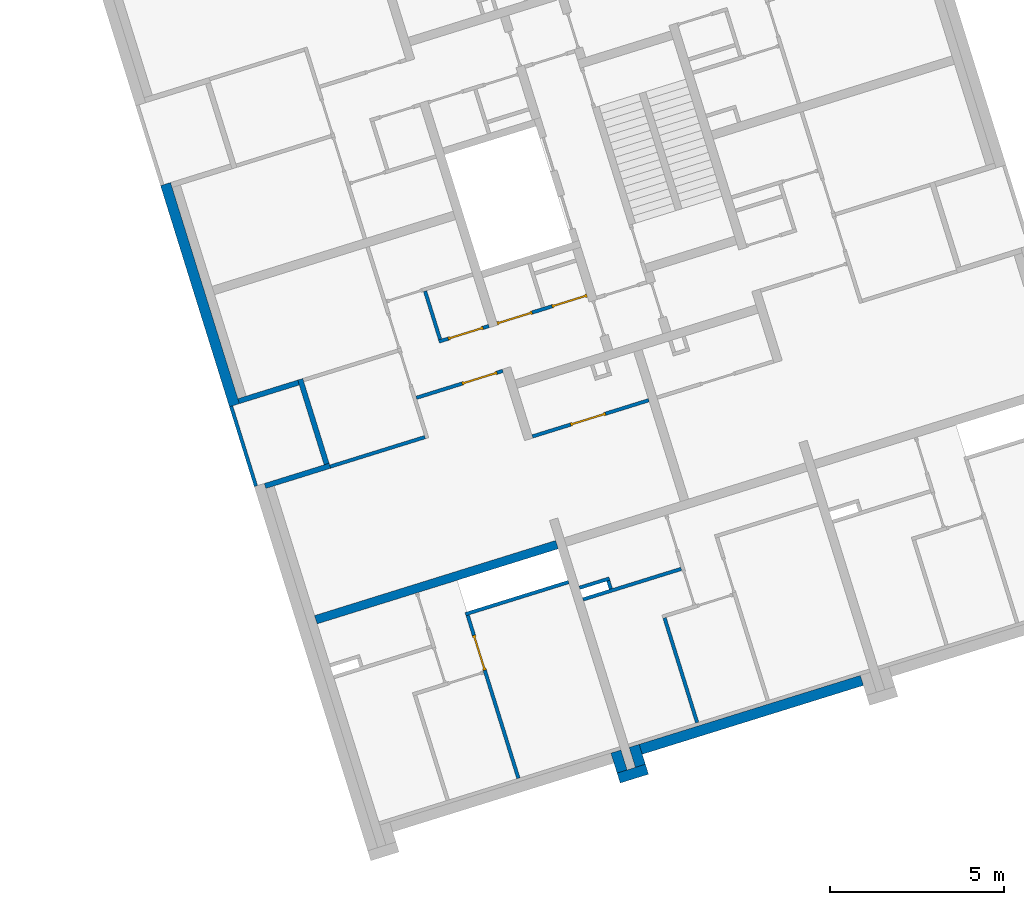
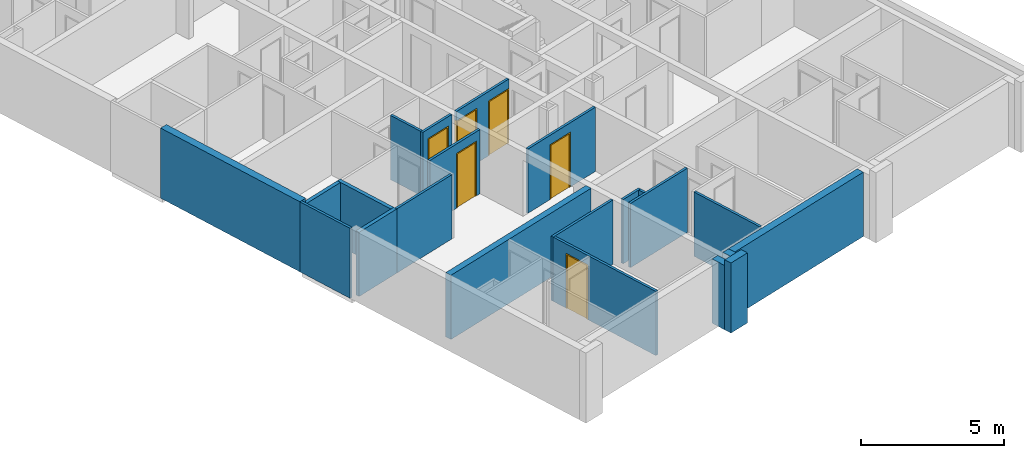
# One storey, part 2 of 12: 22 walls, 6 doors, 7 openings.
"""IFC4 building model written with IfcOpenShell, lengths in metres."""

from ifc_helpers import new_model, entity, si_unit, converted_unit, direction, frame, origin, place, context, subcontext, project, spatial, indexed_curve, outline, extrude, polygons, source, transform, mapped, material, constituent, constituent_set, type_object, type_shapes, element, fill, save


model = new_model("IFC4")

# Units and contexts
model_context = context("Model", 3, precision=1e-05, world=origin(), true_north=direction((6.12323399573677e-17, 1.0)))
body_context = subcontext(model_context, "Body", "Model", "MODEL_VIEW")
ifc_project = project(units=[si_unit("LENGTHUNIT", "METRE"), si_unit("AREAUNIT", "SQUARE_METRE"), si_unit("VOLUMEUNIT", "CUBIC_METRE"), converted_unit("PLANEANGLEUNIT", "DEGREE", entity("IfcPlaneAngleMeasure", 0.0174532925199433), si_unit("PLANEANGLEUNIT", "RADIAN"), dimensions=[0, 0, 0, 0, 0, 0, 0])], contexts=[model_context])

# Site, building, storey
site_placement = place(None, frame((13.1347999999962, 11.9886000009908, 0.0), z_axis=(0.0, 0.0, 1.0), x_axis=(0.954770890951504, 0.297342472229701, 0.0)))
site = spatial("IfcSite", under=ifc_project, at=site_placement, Name="Schiehaven", CompositionType="ELEMENT")
building_placement = place(site_placement, origin())
building = spatial("IfcBuilding", under=site, at=building_placement, Name="VORM huis", CompositionType="ELEMENT")
storey_placement = place(building_placement, frame((0.0, 0.0, 3.9)))
storey = spatial("IfcBuildingStorey", under=building, at=storey_placement, Name="01 eerste verdieping", CompositionType="ELEMENT", Elevation=3.9)

# Walls
ifc_material_1 = material(Name="ntb_ntb_ntb", Category="Miscellaneous")
wall_type_1 = type_object("IfcWallType", Name="Basic Wall: 300mm_gen", PredefinedType="STANDARD")
wall_1_placement = place(storey_placement, frame((4.72500000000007, 13.7250000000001, 0.0), z_axis=(0.0, 0.0, 1.0), x_axis=(0.0, 1.0, 0.0)))
element("IfcWall", 1, at=wall_1_placement, inside=storey, type_object=wall_type_1, material=ifc_material_1, Name="Gevelwand", ObjectType="Wand", PredefinedType="NOTDEFINED", context=body_context, shape_type="SweptSolid", body=[
    extrude(outline(indexed_curve([(6.64999999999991, 0.15), (-2.93106892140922e-16, 0.15), (2.93106892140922e-16, -0.15), (6.64999999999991, -0.15), (6.64999999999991, 0.15)], self_intersect=False)), origin(), (0.0, 0.0, 1.0), 3.0),
])
wall_2_placement = place(storey_placement, frame((12.225, 0.375000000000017, 0.0), z_axis=(0.0, 0.0, 1.0), x_axis=(0.0, 1.0, 0.0)))
element("IfcWall", 2, at=wall_2_placement, inside=storey, type_object=wall_type_1, material=ifc_material_1, Name="Gevelwand", ObjectType="Wand", PredefinedType="NOTDEFINED", context=body_context, shape_type="SweptSolid", body=[
    extrude(outline(indexed_curve([(0.600000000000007, 0.150000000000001), (0.0, 0.150000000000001), (0.0, -0.150000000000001), (0.600000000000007, -0.150000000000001), (0.600000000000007, 0.150000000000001)], self_intersect=False)), origin(), (0.0, 0.0, 1.0), 2.75),
])
wall_3_placement = place(storey_placement, frame((12.9250000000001, 0.225000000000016, 0.0), z_axis=(0.0, 0.0, 1.0), x_axis=(-1.0, 0.0, 0.0)))
element("IfcWall", 3, at=wall_3_placement, inside=storey, type_object=wall_type_1, material=ifc_material_1, Name="Gevelwand", ObjectType="Wand", PredefinedType="NOTDEFINED", context=body_context, shape_type="SweptSolid", body=[
    extrude(outline(indexed_curve([(0.850000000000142, 0.15), (-3.08086889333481e-16, 0.15), (3.08086889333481e-16, -0.15), (0.850000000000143, -0.15), (0.850000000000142, 0.15)], self_intersect=False)), origin(), (0.0, 0.0, 1.0), 3.0),
])
wall_4_placement = place(storey_placement, frame((12.7750000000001, 0.975000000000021, 0.0), z_axis=(0.0, 0.0, 1.0), x_axis=(0.0, -1.0, 0.0)))
element("IfcWall", 4, at=wall_4_placement, inside=storey, type_object=wall_type_1, material=ifc_material_1, Name="Gevelwand", ObjectType="Wand", PredefinedType="NOTDEFINED", context=body_context, shape_type="SweptSolid", body=[
    extrude(outline(indexed_curve([(0.600000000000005, 0.150000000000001), (0.0, 0.150000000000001), (0.0, -0.150000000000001), (0.600000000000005, -0.150000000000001), (0.600000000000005, 0.150000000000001)], self_intersect=False)), origin(), (0.0, 0.0, 1.0), 2.75),
])
wall_5_placement = place(storey_placement, frame((19.5750000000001, 0.824999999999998, 0.0), z_axis=(0.0, 0.0, 1.0), x_axis=(-1.0, 0.0, 0.0)))
element("IfcWall", 5, at=wall_5_placement, inside=storey, type_object=wall_type_1, material=ifc_material_1, Name="Gevelwand", ObjectType="Wand", PredefinedType="NOTDEFINED", context=body_context, shape_type="SweptSolid", body=[
    extrude(outline(indexed_curve([(6.64999999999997, 0.15), (-4.76111769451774e-16, 0.15), (4.76111769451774e-16, -0.15), (6.64999999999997, -0.15), (6.64999999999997, 0.15)], self_intersect=False)), origin(), (0.0, 0.0, 1.0), 2.75),
])
wall_type_2 = type_object("IfcWallType", Name="Basic Wall:22_WA_afbouw_binnenwand 250mm_gen", PredefinedType="STANDARD")
wall_6_placement = place(storey_placement, frame((5.12500000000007, 7.15000000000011, 0.0)))
element("IfcWall", 6, at=wall_6_placement, inside=storey, type_object=wall_type_2, material=ifc_material_1, Name="Binnenwand", ObjectType="Wand", PredefinedType="NOTDEFINED", context=body_context, shape_type="SweptSolid", body=[
    extrude(outline(indexed_curve([(7.24999999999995, 0.124999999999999), (-1.92055213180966e-16, 0.125), (1.92055213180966e-16, -0.125), (7.24999999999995, -0.125000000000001), (7.24999999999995, 0.124999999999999)], self_intersect=False)), origin(), (0.0, 0.0, 1.0), 2.75),
])
wall_type_3 = type_object("IfcWallType", Name="Basic Wall:22_WA_afbouw_binnenwand 100mm_gen", PredefinedType="STANDARD")
wall_7_placement = place(storey_placement, frame((14.7, 1.07500000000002, 0.0), z_axis=(0.0, 0.0, 1.0), x_axis=(0.0, 1.0, 0.0)))
element("IfcWall", 7, at=wall_7_placement, inside=storey, type_object=wall_type_3, material=ifc_material_1, Name="Binnenwand", ObjectType="Wand", PredefinedType="NOTDEFINED", context=body_context, shape_type="SweptSolid", body=[
    extrude(outline(indexed_curve([(3.15000000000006, 0.049999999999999), (-6.18781216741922e-17, 0.0499999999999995), (6.18781216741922e-17, -0.0499999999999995), (3.15000000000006, -0.0499999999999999), (3.15000000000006, 0.049999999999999)], self_intersect=False)), origin(), (0.0, 0.0, 1.0), 2.75),
])
wall_8_placement = place(storey_placement, frame((15.5750000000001, 5.42500000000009, 0.0), z_axis=(0.0, 0.0, 1.0), x_axis=(-1.0, 0.0, 0.0)))
element("IfcWall", 8, at=wall_8_placement, inside=storey, type_object=wall_type_3, material=ifc_material_1, Name="Binnenwand", ObjectType="Wand", PredefinedType="NOTDEFINED", context=body_context, shape_type="SweptSolid", body=[
    extrude(outline(indexed_curve([(2.95000000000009, 0.0499999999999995), (0.0, 0.0499999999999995), (0.0, -0.0499999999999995), (2.95000000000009, -0.0499999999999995), (2.95000000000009, 0.0499999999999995)], self_intersect=False)), origin(), (0.0, 0.0, 1.0), 2.75),
])
wall_9_placement = place(storey_placement, frame((12.625, 5.7750000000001, 0.0)))
element("IfcWall", 9, at=wall_9_placement, inside=storey, type_object=wall_type_3, material=ifc_material_1, Name="Binnenwand", ObjectType="Wand", PredefinedType="NOTDEFINED", context=body_context, shape_type="SweptSolid", body=[
    extrude(outline(indexed_curve([(0.899999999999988, 0.0500000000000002), (-1.02695629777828e-16, 0.0500000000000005), (1.02695629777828e-16, -0.0500000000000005), (0.899999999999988, -0.0500000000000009), (0.899999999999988, 0.0500000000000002)], self_intersect=False)), origin(), (0.0, 0.0, 1.0), 2.75),
])
wall_10_placement = place(storey_placement, frame((13.475, 5.7250000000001, 0.0), z_axis=(0.0, 0.0, 1.0), x_axis=(0.0, -1.0, 0.0)))
element("IfcWall", 10, at=wall_10_placement, inside=storey, type_object=wall_type_3, material=ifc_material_1, Name="Binnenwand", ObjectType="Wand", PredefinedType="NOTDEFINED", context=body_context, shape_type="SweptSolid", body=[
    extrude(outline(indexed_curve([(0.250000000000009, 0.0499999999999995), (0.0, 0.0499999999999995), (0.0, -0.0499999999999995), (0.250000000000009, -0.0499999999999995), (0.250000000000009, 0.0499999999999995)], self_intersect=False)), origin(), (0.0, 0.0, 1.0), 2.75),
])
wall_11_placement = place(storey_placement, frame((9.27499999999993, 6.0250000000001, 0.0)))
element("IfcWall", 11, at=wall_11_placement, inside=storey, type_object=wall_type_3, material=ifc_material_1, Name="Binnenwand", ObjectType="Wand", PredefinedType="NOTDEFINED", context=body_context, shape_type="SweptSolid", body=[
    extrude(outline(indexed_curve([(3.10000000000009, 0.0499999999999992), (-1.5325289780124e-16, 0.0499999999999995), (1.5325289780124e-16, -0.0499999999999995), (3.10000000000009, -0.0499999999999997), (3.10000000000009, 0.0499999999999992)], self_intersect=False)), origin(), (0.0, 0.0, 1.0), 2.75),
])

# Wall, openings, door
wall_12_placement = place(storey_placement, frame((9.32499999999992, 1.07500000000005, 0.0), z_axis=(0.0, 0.0, 1.0), x_axis=(0.0, 1.0, 0.0)))
wall_12 = element("IfcWall", 12, at=wall_12_placement, inside=storey, type_object=wall_type_3, material=ifc_material_1, Name="Binnenwand", ObjectType="Wand", PredefinedType="NOTDEFINED", context=body_context, shape_type="Tessellation", body=[
    polygons([(4.90000000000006, -0.0500000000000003, 2.75), (2.70716782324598e-16, -0.0500000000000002, 2.75), (5.41433564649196e-16, -0.0500000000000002, 0.0), (3.25000000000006, -0.0500000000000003, 0.0), (3.25000000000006, -0.0500000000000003, 2.34999999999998), (4.30000000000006, -0.0500000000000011, 2.34999999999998), (4.30000000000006, -0.0500000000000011, 0.0), (4.90000000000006, -0.0500000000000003, 0.0), (4.06075173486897e-16, 0.0499999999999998, 2.75), (3.15000000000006, 0.0499999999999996, 2.75), (3.25000000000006, 0.0499999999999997, 2.75), (4.90000000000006, 0.0500000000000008, 2.75), (4.90000000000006, 0.0500000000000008, 0.0), (4.30000000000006, 0.05, 0.0), (4.30000000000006, 0.05, 2.34999999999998), (3.25000000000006, 0.0499999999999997, 2.34999999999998), (3.25000000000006, 0.0499999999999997, 0.0), (3.15000000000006, 0.0499999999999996, 5.41433564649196e-16), (5.41433564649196e-16, 0.0499999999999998, 0.0)], [[[1, 2, 3, 4, 5, 6, 7, 8]], [[9, 10, 11, 12, 13, 14, 15, 16, 17, 18, 19]], [[3, 19, 18, 17, 4]], [[2, 1, 12, 11, 10, 9]], [[3, 2, 9, 19]], [[1, 8, 13, 12]], [[6, 15, 14, 7]], [[16, 5, 4, 17]], [[15, 6, 5, 16]], [[13, 8, 7, 14]]], closed=True),
])
opening_1_placement = place(wall_12_placement, frame((3.25000000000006, -0.0500000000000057, 0.0)))
opening_1 = element("IfcOpeningElement", 13, at=opening_1_placement, cuts=wall_12, Name="Binnendeur", PredefinedType="OPENING", context=body_context, shape_type="SweptSolid", body=[
    extrude(outline(indexed_curve([(2.34999999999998, 1.05), (0.0, 1.05), (0.0, 5.41433564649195e-16), (2.34999999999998, 5.41433564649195e-16), (2.34999999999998, 1.05)], self_intersect=False)), frame((0.0, 0.0, 0.0), z_axis=(0.0, 1.0, 0.0), x_axis=(0.0, 0.0, 1.0)), (0.0, 0.0, 1.0), 0.1),
])
opening_2_placement = place(wall_12_placement, frame((-1.07500000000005, 9.32499999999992, 0.0), z_axis=(0.0, 0.0, 1.0), x_axis=(0.0, -1.0, 0.0)))
element("IfcOpeningElement", 14, at=opening_2_placement, cuts=wall_12, Name="Binnendeur", PredefinedType="OPENING", context=body_context, shape_type="SweptSolid", body=[
    extrude(outline(indexed_curve([(-1.17499999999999, -0.525), (1.17499999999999, -0.525), (1.17499999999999, 0.525000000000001), (-1.17499999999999, 0.525000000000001), (-1.17499999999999, -0.525)], self_intersect=False)), frame((10.8989999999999, 4.8500000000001, 1.17499999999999), z_axis=(-1.0, 0.0, 0.0), x_axis=(0.0, 0.0, -1.0)), (0.0, 0.0, 1.0), 3.048),
])
ifc_material_2 = material(Name="PD_a_binnenwandopeningen", Category="Miscellaneous")
ifc_constituent_1 = constituent(ifc_material_2, Name="PD_a_binnenwandopeningen", Category="Miscellaneous")
ifc_material_3 = material(Name="metaal_aluminium_ntb", Category="Miscellaneous")
ifc_constituent_2 = constituent(ifc_material_3, Name="metaal_aluminium_ntb", Category="Miscellaneous")
ifc_constituent_set_1 = constituent_set(constituents=[ifc_constituent_1, ifc_constituent_2])
door_type = type_object("IfcDoorType", Name="32_DO_binnendeur enkel:binnendeur", OperationType="REVOLVING", PredefinedType="DOOR")
shared_shape_1 = source(origin(), body_context, "Body", "SweptSolid", [
    extrude(outline(indexed_curve([(-1.16249999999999, -0.525000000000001), (1.18749999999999, -0.525), (1.18749999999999, 0.525), (-1.16249999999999, 0.525), (-1.16249999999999, 0.475), (1.13749999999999, 0.475), (1.13749999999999, -0.475), (-1.16249999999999, -0.475), (-1.16249999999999, -0.525000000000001)], self_intersect=False)), frame((0.525000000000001, 0.0, 1.16249999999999), z_axis=(0.0, 1.0, 0.0), x_axis=(0.0, 0.0, 1.0)), (0.0, 0.0, 1.0), 0.1),
    extrude(outline(indexed_curve([(-0.025, -0.475), (0.025, -0.475), (0.025, 0.475), (-0.025, 0.475), (-0.025, -0.475)], self_intersect=False)), frame((0.525000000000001, 0.0499999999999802, 0.0), z_axis=(0.0, 0.0, 1.0), x_axis=(0.0, 1.0, 0.0)), (0.0, 0.0, 1.0), 2.29999999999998),
])
type_shapes(door_type, [shared_shape_1])
door_1_placement = place(opening_1_placement, origin())
door_1 = element("IfcDoor", 15, at=door_1_placement, inside=storey, type_object=door_type, material=ifc_constituent_set_1, Name="Binnendeur", ObjectType="Deur", OperationType="REVOLVING", OverallHeight=2.34999999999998, OverallWidth=1.05, PredefinedType="DOOR", context=body_context, shape_type="MappedRepresentation", body=[
    mapped(shared_shape_1, transform((0.0, 0.0, 0.0), scale=1.0)),
])
fill(opening_1, door_1)

# Walls
wall_13_placement = place(storey_placement, frame((9.67500000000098, 11.225, 0.0), z_axis=(0.0, 0.0, 1.0), x_axis=(-1.0, 0.0, 0.0)))
element("IfcWall", 16, at=wall_13_placement, inside=storey, type_object=wall_type_3, material=ifc_material_1, Name="Binnenwand", ObjectType="Wand", PredefinedType="NOTDEFINED", context=body_context, shape_type="SweptSolid", body=[
    extrude(outline(indexed_curve([(2.85000000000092, 0.0500000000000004), (-6.63119471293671e-16, 0.0499999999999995), (6.63119471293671e-16, -0.0499999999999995), (2.85000000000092, -0.0499999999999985), (2.85000000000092, 0.0500000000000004)], self_intersect=False)), origin(), (0.0, 0.0, 1.0), 2.75),
])
wall_14_placement = place(storey_placement, frame((10.925000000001, 15.225, 0.0), z_axis=(0.0, 0.0, 1.0), x_axis=(0.0, -1.0, 0.0)))
element("IfcWall", 17, at=wall_14_placement, inside=storey, type_object=wall_type_3, material=ifc_material_1, Name="Binnenwand", ObjectType="Wand", PredefinedType="NOTDEFINED", context=body_context, shape_type="SweptSolid", body=[
    extrude(outline(indexed_curve([(1.4500000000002, 0.0499999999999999), (-4.63267710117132e-16, 0.0499999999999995), (4.63267710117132e-16, -0.0499999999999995), (1.4500000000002, -0.049999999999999), (1.4500000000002, 0.0499999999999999)], self_intersect=False)), origin(), (0.0, 0.0, 1.0), 2.75),
])

# Wall, openings, doors
wall_15_placement = place(storey_placement, frame((15.3250000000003, 13.7249999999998, 0.0), z_axis=(0.0, 0.0, 1.0), x_axis=(-1.0, 0.0, 0.0)))
wall_15 = element("IfcWall", 18, at=wall_15_placement, inside=storey, type_object=wall_type_3, material=ifc_material_1, Name="Binnenwand", ObjectType="Wand", PredefinedType="NOTDEFINED", context=body_context, shape_type="Tessellation", body=[
    polygons([(2.70000000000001, -0.0500000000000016, 2.75), (1.34999999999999, -0.0500000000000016, 2.75), (1.24999999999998, -0.0500000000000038, 2.75), (-1.79660450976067e-16, -0.0500000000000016, 2.75), (-1.79660450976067e-16, -0.0500000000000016, 2.34999999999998), (1.05, -0.0500000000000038, 2.34999999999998), (1.05, -0.0500000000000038, -5.41433564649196e-16), (1.24999999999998, -0.0500000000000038, 0.0), (1.34999999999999, -0.0500000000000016, 0.0), (1.65000000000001, -0.0500000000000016, -5.41433564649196e-16), (1.65000000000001, -0.0500000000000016, 2.34999999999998), (2.70000000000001, -0.0500000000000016, 2.34999999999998), (6.98156938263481e-16, 0.0499999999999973, 2.75), (2.70000000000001, 0.0499999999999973, 2.75), (2.70000000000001, 0.0499999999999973, 2.34999999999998), (1.65000000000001, 0.0499999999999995, 2.34999999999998), (1.65000000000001, 0.0499999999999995, -5.41433564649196e-16), (1.05, 0.0499999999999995, -5.41433564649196e-16), (1.05, 0.0499999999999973, 2.34999999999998), (6.98156938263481e-16, 0.0499999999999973, 2.34999999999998)], [[[1, 2, 3, 4, 5, 6, 7, 8, 9, 10, 11, 12]], [[13, 14, 15, 16, 17, 18, 19, 20]], [[7, 18, 17, 10, 9, 8]], [[14, 1, 12, 15]], [[4, 3, 2, 1, 14, 13]], [[4, 13, 20, 5]], [[6, 19, 18, 7]], [[19, 6, 5, 20]], [[16, 11, 10, 17]], [[11, 16, 15, 12]]], closed=True),
])
opening_3_placement = place(wall_15_placement, frame((0.0, -0.0500000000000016, 0.0)))
opening_3 = element("IfcOpeningElement", 19, at=opening_3_placement, cuts=wall_15, Name="Binnendeur", PredefinedType="OPENING", context=body_context, shape_type="SweptSolid", body=[
    extrude(outline(indexed_curve([(2.34999999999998, 1.05), (0.0, 1.05), (0.0, 1.353583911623e-15), (2.34999999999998, 1.353583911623e-15), (2.34999999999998, 1.05)], self_intersect=False)), frame((0.0, 0.0, 0.0), z_axis=(0.0, 1.0, 0.0), x_axis=(0.0, 0.0, 1.0)), (0.0, 0.0, 1.0), 0.1),
])
opening_4_placement = place(wall_15_placement, frame((1.65000000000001, -0.0500000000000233, 0.0)))
opening_4 = element("IfcOpeningElement", 20, at=opening_4_placement, cuts=wall_15, Name="Binnendeur", PredefinedType="OPENING", context=body_context, shape_type="SweptSolid", body=[
    extrude(outline(indexed_curve([(2.34999999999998, 1.05), (0.0, 1.05), (0.0, 1.35358391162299e-15), (2.34999999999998, 1.35358391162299e-15), (2.34999999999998, 1.05)], self_intersect=False)), frame((0.0, 0.0, 0.0), z_axis=(0.0, 1.0, 0.0), x_axis=(0.0, 0.0, 1.0)), (0.0, 0.0, 1.0), 0.1),
])
ifc_constituent_3 = constituent(ifc_material_2, Name="PD_a_binnenwandopeningen", Category="Miscellaneous")
ifc_constituent_4 = constituent(ifc_material_3, Name="metaal_aluminium_ntb", Category="Miscellaneous")
ifc_constituent_set_2 = constituent_set(constituents=[ifc_constituent_3, ifc_constituent_4])
door_2_placement = place(opening_3_placement, origin())
door_2 = element("IfcDoor", 21, at=door_2_placement, inside=storey, type_object=door_type, material=ifc_constituent_set_2, Name="Binnendeur", ObjectType="Deur", OperationType="REVOLVING", OverallHeight=2.34999999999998, OverallWidth=1.05, PredefinedType="DOOR", context=body_context, shape_type="MappedRepresentation", body=[
    mapped(shared_shape_1, transform((0.0, 0.0, 0.0), scale=1.0)),
])
fill(opening_3, door_2)
ifc_constituent_5 = constituent(ifc_material_2, Name="PD_a_binnenwandopeningen", Category="Miscellaneous")
ifc_constituent_6 = constituent(ifc_material_3, Name="metaal_aluminium_ntb", Category="Miscellaneous")
ifc_constituent_set_3 = constituent_set(constituents=[ifc_constituent_5, ifc_constituent_6])
door_3_placement = place(opening_4_placement, origin())
door_3 = element("IfcDoor", 22, at=door_3_placement, inside=storey, type_object=door_type, material=ifc_constituent_set_3, Name="Binnendeur", ObjectType="Deur", OperationType="REVOLVING", OverallHeight=2.34999999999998, OverallWidth=1.05, PredefinedType="DOOR", context=body_context, shape_type="MappedRepresentation", body=[
    mapped(shared_shape_1, transform((0.0, 0.0, 0.0), scale=1.0)),
])
fill(opening_4, door_3)

# Wall, opening, door
wall_16_placement = place(storey_placement, frame((12.3771642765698, 13.7249999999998, 0.0), z_axis=(0.0, 0.0, 1.0), x_axis=(-1.0, 0.0, 0.0)))
wall_16 = element("IfcWall", 23, at=wall_16_placement, inside=storey, type_object=wall_type_3, material=ifc_material_1, Name="Binnenwand", ObjectType="Wand", PredefinedType="NOTDEFINED", context=body_context, shape_type="Tessellation", body=[
    polygons([(-2.51397496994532e-16, -0.0499999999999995, -5.41433564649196e-16), (0.176082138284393, -0.0499999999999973, -5.41433564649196e-16), (0.176082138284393, -0.0499999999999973, 2.34999999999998), (1.22608213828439, -0.0500000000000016, 2.34999999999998), (1.22608213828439, -0.0500000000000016, -5.41433564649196e-16), (1.4021642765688, -0.0500000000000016, 0.0), (1.5021642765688, -0.0499999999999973, -5.41433564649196e-16), (1.5021642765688, -0.0499999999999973, 2.75), (1.4021642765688, -0.0500000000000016, 2.75), (-2.51397496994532e-16, -0.0499999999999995, 2.75), (0.176082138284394, 0.0499999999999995, 2.34999999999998), (0.176082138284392, 0.0499999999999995, -5.41433564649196e-16), (6.11218460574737e-16, 0.0499999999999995, -5.41433564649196e-16), (6.11218460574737e-16, 0.0499999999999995, 2.75), (1.5021642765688, 0.0499999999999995, 2.75), (1.5021642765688, 0.0499999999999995, -5.41433564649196e-16), (1.22608213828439, 0.0499999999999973, -5.41433564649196e-16), (1.2260821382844, 0.0499999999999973, 2.34999999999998)], [[[1, 2, 3, 4, 5, 6, 7, 8, 9, 10]], [[11, 12, 13, 14, 15, 16, 17, 18]], [[13, 12, 2, 1]], [[10, 9, 8, 15, 14]], [[1, 10, 14, 13]], [[5, 4, 18, 17]], [[3, 2, 12, 11]], [[4, 3, 11, 18]], [[8, 7, 16, 15]], [[17, 16, 7, 6, 5]]], closed=True),
])
opening_5_placement = place(wall_16_placement, frame((0.176082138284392, -0.0500000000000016, 0.0)))
opening_5 = element("IfcOpeningElement", 24, at=opening_5_placement, cuts=wall_16, Name="Binnendeur", PredefinedType="OPENING", context=body_context, shape_type="SweptSolid", body=[
    extrude(outline(indexed_curve([(2.34999999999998, 1.05), (0.0, 1.05), (0.0, 1.35358391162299e-15), (2.34999999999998, 1.35358391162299e-15), (2.34999999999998, 1.05)], self_intersect=False)), frame((0.0, 0.0, 0.0), z_axis=(0.0, 1.0, 0.0), x_axis=(0.0, 0.0, 1.0)), (0.0, 0.0, 1.0), 0.1),
])
ifc_constituent_7 = constituent(ifc_material_2, Name="PD_a_binnenwandopeningen", Category="Miscellaneous")
ifc_constituent_8 = constituent(ifc_material_3, Name="metaal_aluminium_ntb", Category="Miscellaneous")
ifc_constituent_set_4 = constituent_set(constituents=[ifc_constituent_7, ifc_constituent_8])
door_4_placement = place(opening_5_placement, origin())
door_4 = element("IfcDoor", 25, at=door_4_placement, inside=storey, type_object=door_type, material=ifc_constituent_set_4, Name="Binnendeur", ObjectType="Deur", OperationType="REVOLVING", OverallHeight=2.34999999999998, OverallWidth=1.05, PredefinedType="DOOR", context=body_context, shape_type="MappedRepresentation", body=[
    mapped(shared_shape_1, transform((0.0, 0.0, 0.0), scale=1.0)),
])
fill(opening_5, door_4)

wall_17_placement = place(storey_placement, frame((16.1250000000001, 10.325, 0.0), z_axis=(0.0, 0.0, 1.0), x_axis=(-1.0, 0.0, 0.0)))
wall_17 = element("IfcWall", 26, at=wall_17_placement, inside=storey, type_object=wall_type_3, material=ifc_material_1, Name="Binnenwand", ObjectType="Wand", PredefinedType="NOTDEFINED", context=body_context, shape_type="Tessellation", body=[
    polygons([(3.50000000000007, -0.0500000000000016, -5.41433564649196e-16), (3.50000000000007, -0.0500000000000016, 2.75), (-4.64085912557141e-16, -0.0500000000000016, 2.75), (-4.64085912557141e-16, -0.0500000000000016, -5.41433564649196e-16), (1.29999999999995, -0.0499999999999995, -5.41433564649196e-16), (1.29999999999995, -0.0499999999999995, 2.34999999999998), (2.34999999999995, -0.0500000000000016, 2.34999999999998), (2.34999999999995, -0.0500000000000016, -5.41433564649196e-16), (3.50000000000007, 0.0499999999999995, 2.75), (3.50000000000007, 0.0499999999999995, -5.41433564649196e-16), (2.34999999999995, 0.0499999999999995, -5.41433564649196e-16), (2.34999999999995, 0.0499999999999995, 2.34999999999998), (1.29999999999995, 0.0500000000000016, 2.34999999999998), (1.29999999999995, 0.0500000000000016, -5.41433564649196e-16), (-8.35354642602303e-16, 0.0499999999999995, -5.41433564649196e-16), (-8.35354642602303e-16, 0.0499999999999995, 2.75)], [[[1, 2, 3, 4, 5, 6, 7, 8]], [[9, 10, 11, 12, 13, 14, 15, 16]], [[4, 15, 14, 5]], [[2, 1, 10, 9]], [[3, 2, 9, 16]], [[4, 3, 16, 15]], [[7, 12, 11, 8]], [[13, 6, 5, 14]], [[12, 7, 6, 13]], [[10, 1, 8, 11]]], closed=True),
])
opening_6_placement = place(wall_17_placement, frame((1.29999999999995, -0.0500000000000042, 0.0)))
opening_6 = element("IfcOpeningElement", 27, at=opening_6_placement, cuts=wall_17, Name="Binnendeur", PredefinedType="OPENING", context=body_context, shape_type="SweptSolid", body=[
    extrude(outline(indexed_curve([(2.34999999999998, 1.05), (0.0, 1.05), (0.0, 1.35358391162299e-15), (2.34999999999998, 1.35358391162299e-15), (2.34999999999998, 1.05)], self_intersect=False)), frame((0.0, 0.0, 0.0), z_axis=(0.0, 1.0, 0.0), x_axis=(0.0, 0.0, 1.0)), (0.0, 0.0, 1.0), 0.1),
])
ifc_constituent_9 = constituent(ifc_material_2, Name="PD_a_binnenwandopeningen", Category="Miscellaneous")
ifc_constituent_10 = constituent(ifc_material_3, Name="metaal_aluminium_ntb", Category="Miscellaneous")
ifc_constituent_set_5 = constituent_set(constituents=[ifc_constituent_9, ifc_constituent_10])
door_5_placement = place(opening_6_placement, origin())
door_5 = element("IfcDoor", 28, at=door_5_placement, inside=storey, type_object=door_type, material=ifc_constituent_set_5, Name="Binnendeur", ObjectType="Deur", OperationType="REVOLVING", OverallHeight=2.34999999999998, OverallWidth=1.05, PredefinedType="DOOR", context=body_context, shape_type="MappedRepresentation", body=[
    mapped(shared_shape_1, transform((0.0, 0.0, 0.0), scale=1.0)),
])
fill(opening_6, door_5)

wall_18_placement = place(storey_placement, frame((9.77500000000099, 12.3749999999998, 0.0)))
wall_18 = element("IfcWall", 29, at=wall_18_placement, inside=storey, type_object=wall_type_3, material=ifc_material_1, Name="Binnenwand", ObjectType="Wand", PredefinedType="NOTDEFINED", context=body_context, shape_type="Tessellation", body=[
    polygons([(2.4260821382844, -0.0499999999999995, 2.34999999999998), (2.42608213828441, -0.0499999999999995, 0.0), (2.59999999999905, -0.0499999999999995, 0.0), (2.59999999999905, -0.0499999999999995, 2.75), (0.0, -0.0499999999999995, 2.75), (0.0, -0.0499999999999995, 0.0), (1.3760821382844, -0.0499999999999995, 0.0), (1.3760821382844, -0.0499999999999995, 2.34999999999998), (2.59999999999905, 0.0499999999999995, 0.0), (2.42608213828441, 0.0499999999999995, 0.0), (2.4260821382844, 0.0499999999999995, 2.34999999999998), (1.3760821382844, 0.0499999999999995, 2.34999999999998), (1.3760821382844, 0.0499999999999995, 0.0), (2.16573425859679e-15, 0.0499999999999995, 0.0), (2.16573425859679e-15, 0.0499999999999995, 2.75), (2.59999999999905, 0.0499999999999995, 2.75)], [[[1, 2, 3, 4, 5, 6, 7, 8]], [[9, 10, 11, 12, 13, 14, 15, 16]], [[7, 6, 14, 13]], [[4, 3, 9, 16]], [[5, 4, 16, 15]], [[6, 5, 15, 14]], [[13, 12, 8, 7]], [[11, 10, 2, 1]], [[12, 11, 1, 8]], [[3, 2, 10, 9]]], closed=True),
])
opening_7_placement = place(wall_18_placement, frame((1.3760821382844, -0.0499999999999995, 0.0)))
opening_7 = element("IfcOpeningElement", 30, at=opening_7_placement, cuts=wall_18, Name="Binnendeur", PredefinedType="OPENING", context=body_context, shape_type="SweptSolid", body=[
    extrude(outline(indexed_curve([(2.34999999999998, 1.35358391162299e-15), (2.34999999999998, 1.05), (0.0, 1.05), (0.0, 1.35358391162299e-15), (2.34999999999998, 1.35358391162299e-15)], self_intersect=False)), frame((0.0, 0.0, 0.0), z_axis=(0.0, 1.0, 0.0), x_axis=(0.0, 0.0, 1.0)), (0.0, 0.0, 1.0), 0.1),
])
ifc_constituent_11 = constituent(ifc_material_2, Name="PD_a_binnenwandopeningen", Category="Miscellaneous")
ifc_constituent_12 = constituent(ifc_material_3, Name="metaal_aluminium_ntb", Category="Miscellaneous")
ifc_constituent_set_6 = constituent_set(constituents=[ifc_constituent_11, ifc_constituent_12])
shared_shape_2 = source(origin(), body_context, "Body", "SweptSolid", [
    extrude(outline(indexed_curve([(0.475, -1.16249999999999), (0.525, -1.16249999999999), (0.525, 1.18749999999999), (-0.525, 1.18749999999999), (-0.525, -1.16249999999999), (-0.475, -1.16249999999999), (-0.475, 1.13749999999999), (0.475, 1.13749999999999), (0.475, -1.16249999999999)], self_intersect=False)), frame((0.525000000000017, 0.100000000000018, 1.16249999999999), z_axis=(0.0, -1.0, 0.0), x_axis=(1.0, 0.0, 0.0)), (0.0, 0.0, 1.0), 0.1),
    extrude(outline(indexed_curve([(-0.475, -0.025), (0.475, -0.025), (0.475, 0.025), (-0.475, 0.025), (-0.475, -0.025)], self_intersect=False)), frame((0.525000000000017, 0.0499999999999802, 0.0)), (0.0, 0.0, 1.0), 2.29999999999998),
])
door_6_placement = place(opening_7_placement, origin())
door_6 = element("IfcDoor", 31, at=door_6_placement, inside=storey, type_object=door_type, material=ifc_constituent_set_6, Name="Binnendeur", ObjectType="Deur", OperationType="REVOLVING", OverallHeight=2.34999999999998, OverallWidth=1.05, PredefinedType="DOOR", context=body_context, shape_type="MappedRepresentation", body=[
    mapped(shared_shape_2, transform((0.0, 0.0, 0.0), scale=1.0)),
])
fill(opening_7, door_6)

# Walls
wall_type_4 = type_object("IfcWallType", Name="Basic Wall: 150mm_gen", PredefinedType="STANDARD")
wall_19_placement = place(storey_placement, frame((4.87500000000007, 11.2500000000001, 0.0)))
element("IfcWall", 32, at=wall_19_placement, inside=storey, type_object=wall_type_4, material=ifc_material_1, Name="Gevelwand", ObjectType="Wand", PredefinedType="NOTDEFINED", context=body_context, shape_type="SweptSolid", body=[
    extrude(outline(indexed_curve([(1.95000000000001, 0.0750000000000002), (-2.49060845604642e-16, 0.0750000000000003), (2.49060845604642e-16, -0.0750000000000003), (1.95000000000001, -0.0750000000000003), (1.95000000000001, 0.0750000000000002)], self_intersect=False)), origin(), (0.0, 0.0, 1.0), 2.75),
])
wall_20_placement = place(storey_placement, frame((6.75000000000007, 11.3250000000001, 0.0), z_axis=(0.0, 0.0, 1.0), x_axis=(0.0, 1.0, 0.0)))
element("IfcWall", 33, at=wall_20_placement, inside=storey, type_object=wall_type_4, material=ifc_material_1, Name="Gevelwand", ObjectType="Wand", PredefinedType="NOTDEFINED", context=body_context, shape_type="SweptSolid", body=[
    extrude(outline(indexed_curve([(2.55, 0.0750000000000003), (0.0, 0.0750000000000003), (0.0, -0.0750000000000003), (2.55, -0.0750000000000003), (2.55, 0.0750000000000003)], self_intersect=False)), origin(), (0.0, 0.0, 1.0), 2.75),
])
wall_21_placement = place(storey_placement, frame((6.67500000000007, 13.8000000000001, 0.0), z_axis=(0.0, 0.0, 1.0), x_axis=(-1.0, 0.0, 0.0)))
element("IfcWall", 34, at=wall_21_placement, inside=storey, type_object=wall_type_4, material=ifc_material_1, Name="Gevelwand", ObjectType="Wand", PredefinedType="NOTDEFINED", context=body_context, shape_type="SweptSolid", body=[
    extrude(outline(indexed_curve([(1.8, 0.0750000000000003), (0.0, 0.0750000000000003), (0.0, -0.0750000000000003), (1.8, -0.0750000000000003), (1.8, 0.0750000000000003)], self_intersect=False)), origin(), (0.0, 0.0, 1.0), 2.75),
])
wall_type_5 = type_object("IfcWallType", Name="Basic Wall: 100mm_gen", PredefinedType="STANDARD")
wall_22_placement = place(storey_placement, frame((4.62500000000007, 11.3250000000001, 0.0), z_axis=(0.0, 0.0, 1.0), x_axis=(0.0, 1.0, 0.0)))
element("IfcWall", 35, at=wall_22_placement, inside=storey, type_object=wall_type_5, material=ifc_material_1, Name="Gevelwand", ObjectType="Wand", PredefinedType="NOTDEFINED", context=body_context, shape_type="SweptSolid", body=[
    extrude(outline(indexed_curve([(2.4, 0.0499999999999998), (-7.39698352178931e-17, 0.05), (7.39698352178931e-17, -0.05), (2.4, -0.0500000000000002), (2.4, 0.0499999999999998)], self_intersect=False)), origin(), (0.0, 0.0, 1.0), 3.0),
])

save(model, "model.ifc")
